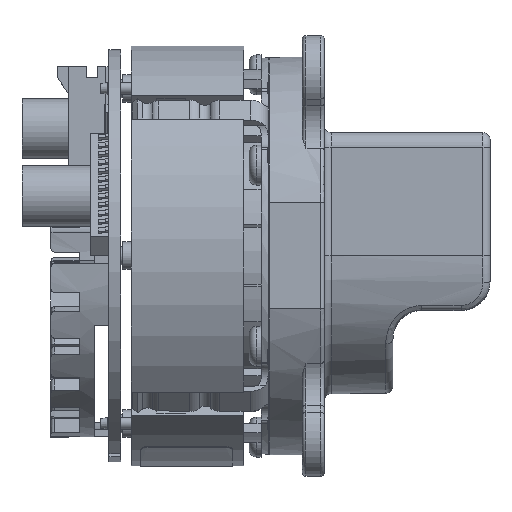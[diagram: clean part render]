
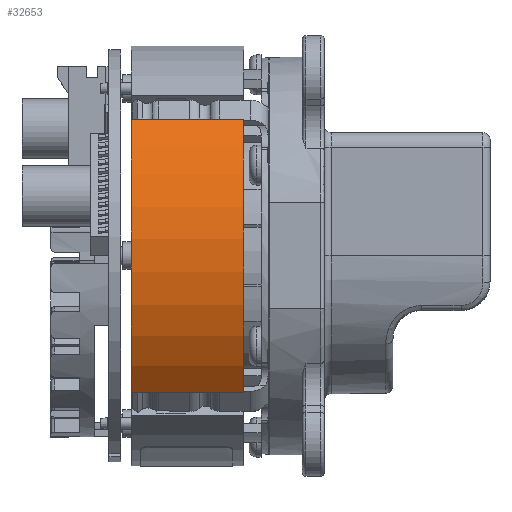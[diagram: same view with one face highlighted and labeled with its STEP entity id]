
A CAD part, top view. The second image highlights one B-rep face of the part: STEP entity #32653.
In plain terms, the highlighted cylindrical face has radius 29.05 mm (diameter 58.1 mm), a partial arc.
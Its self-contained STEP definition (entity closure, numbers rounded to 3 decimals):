
#3055 = AXIS2_PLACEMENT_3D ( 'NONE', #18081, #30976, #8541 ) ;
#3916 = DIRECTION ( 'NONE',  ( 0., 0., 1. ) ) ;
#4002 = ORIENTED_EDGE ( 'NONE', *, *, #31963, .T. ) ;
#6055 = ORIENTED_EDGE ( 'NONE', *, *, #14333, .F. ) ;
#7140 = LINE ( 'NONE', #57394, #45235 ) ;
#7329 = CARTESIAN_POINT ( 'NONE',  ( 0., 0., -15.5 ) ) ;
#8541 = DIRECTION ( 'NONE',  ( 1., 0., 0. ) ) ;
#8805 = VERTEX_POINT ( 'NONE', #55515 ) ;
#11758 = ORIENTED_EDGE ( 'NONE', *, *, #43705, .F. ) ;
#14333 = EDGE_CURVE ( 'NONE', #8805, #30583, #44240, .T. ) ;
#16310 = CYLINDRICAL_SURFACE ( 'NONE', #36923, 29.05 ) ;
#16405 = DIRECTION ( 'NONE',  ( 0., 0., -1. ) ) ;
#18081 = CARTESIAN_POINT ( 'NONE',  ( 0., 0., -15.5 ) ) ;
#22155 = CIRCLE ( 'NONE', #3055, 29.05 ) ;
#23850 = CARTESIAN_POINT ( 'NONE',  ( -18.851, 22.103, -15.5 ) ) ;
#23968 = ORIENTED_EDGE ( 'NONE', *, *, #55470, .T. ) ;
#25528 = DIRECTION ( 'NONE',  ( 0., 0., 1. ) ) ;
#27283 = CARTESIAN_POINT ( 'NONE',  ( 18.851, 22.103, -15.5 ) ) ;
#27949 = CARTESIAN_POINT ( 'NONE',  ( 18.851, 22.103, -15.5 ) ) ;
#28636 = VERTEX_POINT ( 'NONE', #23850 ) ;
#30583 = VERTEX_POINT ( 'NONE', #41697 ) ;
#30976 = DIRECTION ( 'NONE',  ( 0., 0., 1. ) ) ;
#31963 = EDGE_CURVE ( 'NONE', #8805, #53369, #45253, .T. ) ;
#32653 = ADVANCED_FACE ( 'NONE', ( #39052 ), #16310, .T. ) ;
#33736 = AXIS2_PLACEMENT_3D ( 'NONE', #40979, #3916, #54736 ) ;
#36923 = AXIS2_PLACEMENT_3D ( 'NONE', #7329, #25528, #43808 ) ;
#39052 = FACE_OUTER_BOUND ( 'NONE', #56847, .T. ) ;
#40979 = CARTESIAN_POINT ( 'NONE',  ( 0., 0., 0. ) ) ;
#41697 = CARTESIAN_POINT ( 'NONE',  ( -18.851, 22.103, 0. ) ) ;
#43705 = EDGE_CURVE ( 'NONE', #30583, #28636, #7140, .T. ) ;
#43808 = DIRECTION ( 'NONE',  ( 1., 0., 0. ) ) ;
#44240 = CIRCLE ( 'NONE', #33736, 29.05 ) ;
#45235 = VECTOR ( 'NONE', #16405, 1000. ) ;
#45253 = LINE ( 'NONE', #27283, #55010 ) ;
#53369 = VERTEX_POINT ( 'NONE', #27949 ) ;
#54736 = DIRECTION ( 'NONE',  ( 1., 0., 0. ) ) ;
#55010 = VECTOR ( 'NONE', #59044, 1000. ) ;
#55470 = EDGE_CURVE ( 'NONE', #53369, #28636, #22155, .T. ) ;
#55515 = CARTESIAN_POINT ( 'NONE',  ( 18.851, 22.103, 0. ) ) ;
#56847 = EDGE_LOOP ( 'NONE', ( #6055, #4002, #23968, #11758 ) ) ;
#57394 = CARTESIAN_POINT ( 'NONE',  ( -18.851, 22.103, -15.5 ) ) ;
#59044 = DIRECTION ( 'NONE',  ( 0., 0., -1. ) ) ;
